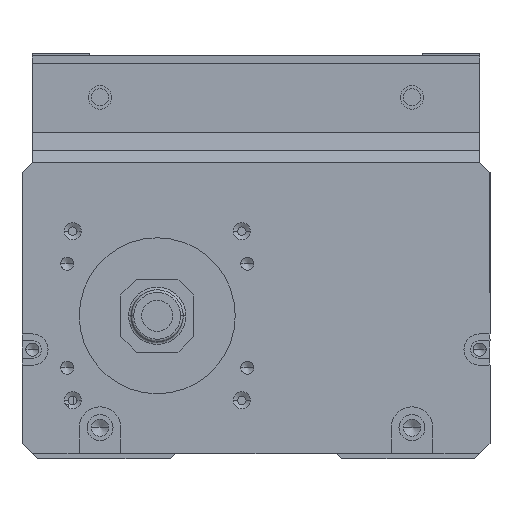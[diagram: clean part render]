
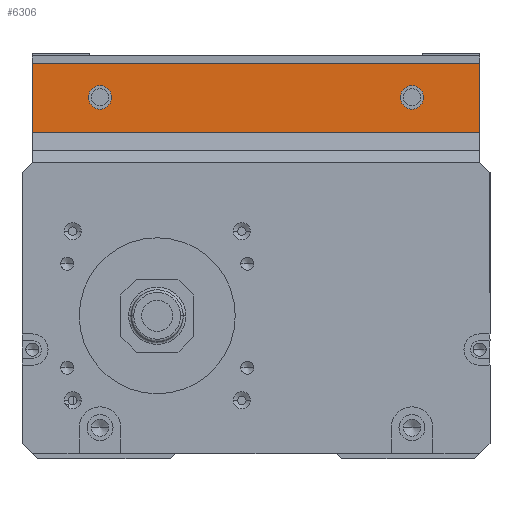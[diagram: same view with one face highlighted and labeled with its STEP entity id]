
A CAD part, front view. The second image highlights one B-rep face of the part: STEP entity #6306.
In plain terms, the highlighted planar face has unit normal (0, -1, 0).
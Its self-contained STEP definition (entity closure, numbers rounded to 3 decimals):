
#133 = ORIENTED_EDGE ( 'NONE', *, *, #6183, .T. ) ;
#217 = AXIS2_PLACEMENT_3D ( 'NONE', #2214, #2096, #2015 ) ;
#233 = ORIENTED_EDGE ( 'NONE', *, *, #4542, .T. ) ;
#357 = ORIENTED_EDGE ( 'NONE', *, *, #6523, .T. ) ;
#755 = VECTOR ( 'NONE', #2610, 1000. ) ;
#828 = DIRECTION ( 'NONE',  ( 0., 0., 1. ) ) ;
#907 = FACE_OUTER_BOUND ( 'NONE', #5869, .T. ) ;
#910 = CARTESIAN_POINT ( 'NONE',  ( 43., 78., -1.5 ) ) ;
#1736 = CIRCLE ( 'NONE', #12510, 2.25 ) ;
#1917 = CARTESIAN_POINT ( 'NONE',  ( -30., 78., -5.75 ) ) ;
#2015 = DIRECTION ( 'NONE',  ( 0., 0., 1. ) ) ;
#2096 = DIRECTION ( 'NONE',  ( 0., 1., 0. ) ) ;
#2214 = CARTESIAN_POINT ( 'NONE',  ( -30., 78., -8. ) ) ;
#2610 = DIRECTION ( 'NONE',  ( -1., 0., 0. ) ) ;
#2727 = CARTESIAN_POINT ( 'NONE',  ( 45., 78., -14.788 ) ) ;
#3076 = LINE ( 'NONE', #9031, #8376 ) ;
#4004 = AXIS2_PLACEMENT_3D ( 'NONE', #11083, #10966, #10856 ) ;
#4542 = EDGE_CURVE ( 'NONE', #5959, #6287, #3076, .T. ) ;
#4577 = CIRCLE ( 'NONE', #7680, 2.25 ) ;
#5305 = EDGE_CURVE ( 'NONE', #11744, #5931, #1736, .T. ) ;
#5869 = EDGE_LOOP ( 'NONE', ( #13502, #133, #233, #357 ) ) ;
#5927 = VERTEX_POINT ( 'NONE', #11813 ) ;
#5931 = VERTEX_POINT ( 'NONE', #11776 ) ;
#5939 = EDGE_CURVE ( 'NONE', #8758, #8534, #15643, .T. ) ;
#5959 = VERTEX_POINT ( 'NONE', #9697 ) ;
#6146 = EDGE_CURVE ( 'NONE', #5927, #14022, #11368, .T. ) ;
#6183 = EDGE_CURVE ( 'NONE', #5927, #5959, #6273, .T. ) ;
#6273 = LINE ( 'NONE', #910, #11449 ) ;
#6287 = VERTEX_POINT ( 'NONE', #14608 ) ;
#6306 = ADVANCED_FACE ( 'NONE', ( #6323, #11492, #907 ), #11223, .T. ) ;
#6323 = FACE_BOUND ( 'NONE', #13336, .T. ) ;
#6523 = EDGE_CURVE ( 'NONE', #6287, #14022, #6782, .T. ) ;
#6782 = LINE ( 'NONE', #7376, #11956 ) ;
#7316 = DIRECTION ( 'NONE',  ( 0., 0., -1. ) ) ;
#7376 = CARTESIAN_POINT ( 'NONE',  ( -43., 78., -1.5 ) ) ;
#7680 = AXIS2_PLACEMENT_3D ( 'NONE', #10469, #10349, #10313 ) ;
#8376 = VECTOR ( 'NONE', #8973, 1000. ) ;
#8534 = VERTEX_POINT ( 'NONE', #10029 ) ;
#8756 = DIRECTION ( 'NONE',  ( 0., 0., 1. ) ) ;
#8758 = VERTEX_POINT ( 'NONE', #9891 ) ;
#8973 = DIRECTION ( 'NONE',  ( -1., 0., 0. ) ) ;
#9031 = CARTESIAN_POINT ( 'NONE',  ( 45., 78., -1.5 ) ) ;
#9275 = ORIENTED_EDGE ( 'NONE', *, *, #10777, .T. ) ;
#9697 = CARTESIAN_POINT ( 'NONE',  ( 43., 78., -1.5 ) ) ;
#9773 = ORIENTED_EDGE ( 'NONE', *, *, #5305, .T. ) ;
#9891 = CARTESIAN_POINT ( 'NONE',  ( 30., 78., -5.75 ) ) ;
#10021 = ORIENTED_EDGE ( 'NONE', *, *, #11719, .T. ) ;
#10029 = CARTESIAN_POINT ( 'NONE',  ( 30., 78., -10.25 ) ) ;
#10313 = DIRECTION ( 'NONE',  ( 0., 0., -1. ) ) ;
#10349 = DIRECTION ( 'NONE',  ( 0., 1., 0. ) ) ;
#10390 = EDGE_LOOP ( 'NONE', ( #9275, #13763 ) ) ;
#10397 = CARTESIAN_POINT ( 'NONE',  ( -43., 78., -14.788 ) ) ;
#10469 = CARTESIAN_POINT ( 'NONE',  ( 30., 78., -8. ) ) ;
#10777 = EDGE_CURVE ( 'NONE', #8534, #8758, #4577, .T. ) ;
#10856 = DIRECTION ( 'NONE',  ( 0., 0., -1. ) ) ;
#10966 = DIRECTION ( 'NONE',  ( 0., 1., 0. ) ) ;
#11083 = CARTESIAN_POINT ( 'NONE',  ( 30., 78., -8. ) ) ;
#11223 = PLANE ( 'NONE',  #14882 ) ;
#11368 = LINE ( 'NONE', #2727, #755 ) ;
#11449 = VECTOR ( 'NONE', #828, 1000. ) ;
#11492 = FACE_BOUND ( 'NONE', #10390, .T. ) ;
#11719 = EDGE_CURVE ( 'NONE', #5931, #11744, #11828, .T. ) ;
#11744 = VERTEX_POINT ( 'NONE', #1917 ) ;
#11776 = CARTESIAN_POINT ( 'NONE',  ( -30., 78., -10.25 ) ) ;
#11813 = CARTESIAN_POINT ( 'NONE',  ( 43., 78., -14.788 ) ) ;
#11828 = CIRCLE ( 'NONE', #217, 2.25 ) ;
#11956 = VECTOR ( 'NONE', #7316, 1000. ) ;
#12510 = AXIS2_PLACEMENT_3D ( 'NONE', #12857, #12580, #8756 ) ;
#12580 = DIRECTION ( 'NONE',  ( 0., 1., 0. ) ) ;
#12857 = CARTESIAN_POINT ( 'NONE',  ( -30., 78., -8. ) ) ;
#13336 = EDGE_LOOP ( 'NONE', ( #10021, #9773 ) ) ;
#13502 = ORIENTED_EDGE ( 'NONE', *, *, #6146, .F. ) ;
#13763 = ORIENTED_EDGE ( 'NONE', *, *, #5939, .T. ) ;
#14022 = VERTEX_POINT ( 'NONE', #10397 ) ;
#14608 = CARTESIAN_POINT ( 'NONE',  ( -43., 78., -1.5 ) ) ;
#14882 = AXIS2_PLACEMENT_3D ( 'NONE', #15858, #15782, #15748 ) ;
#15643 = CIRCLE ( 'NONE', #4004, 2.25 ) ;
#15748 = DIRECTION ( 'NONE',  ( 0., 0., -1. ) ) ;
#15782 = DIRECTION ( 'NONE',  ( 0., -1., 0. ) ) ;
#15858 = CARTESIAN_POINT ( 'NONE',  ( 45., 78., -1.5 ) ) ;
